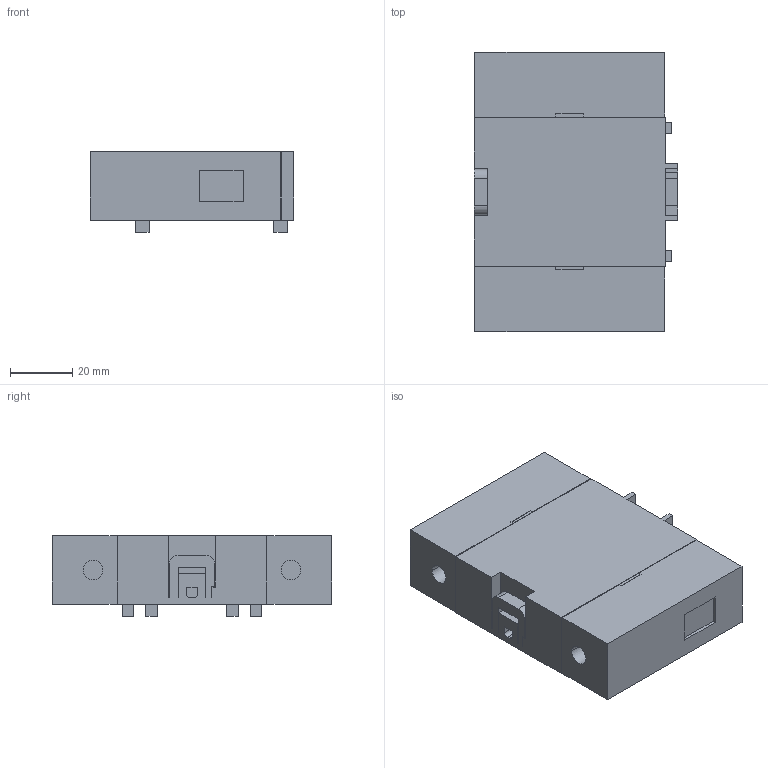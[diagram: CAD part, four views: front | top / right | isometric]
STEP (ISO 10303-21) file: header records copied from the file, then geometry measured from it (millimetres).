
FILE_DESCRIPTION((''),'2;1');
FILE_NAME('194E-A100-PE','2023-08-14T09:10:41',('MGonczarenk'),('Rockwell Automation'),'CREO PARAMETRIC BY PTC INC, 2022162','CREO PARAMETRIC BY PTC INC, 2022162','');
FILE_SCHEMA(('CONFIG_CONTROL_DESIGN'));
Length unit declared in the file: millimetre
Products named in the file (1): 194E-A100-PE
Bounding box: 65.6 x 90 x 25.9 mm (x, y, z)
Surface area: 20658.3 mm2 (no closed solid volume)
Topology: 0 solids, 5 shells, 102 faces, 319 edges, 226 vertices
Faces by surface type: plane 92, cylinder 10
Entity records: 3507 total; most frequent: CARTESIAN_POINT 647, ORIENTED_EDGE 556, DIRECTION 543, EDGE_CURVE 319, VECTOR 299, LINE 299, VERTEX_POINT 226, AXIS2_PLACEMENT_3D 122
